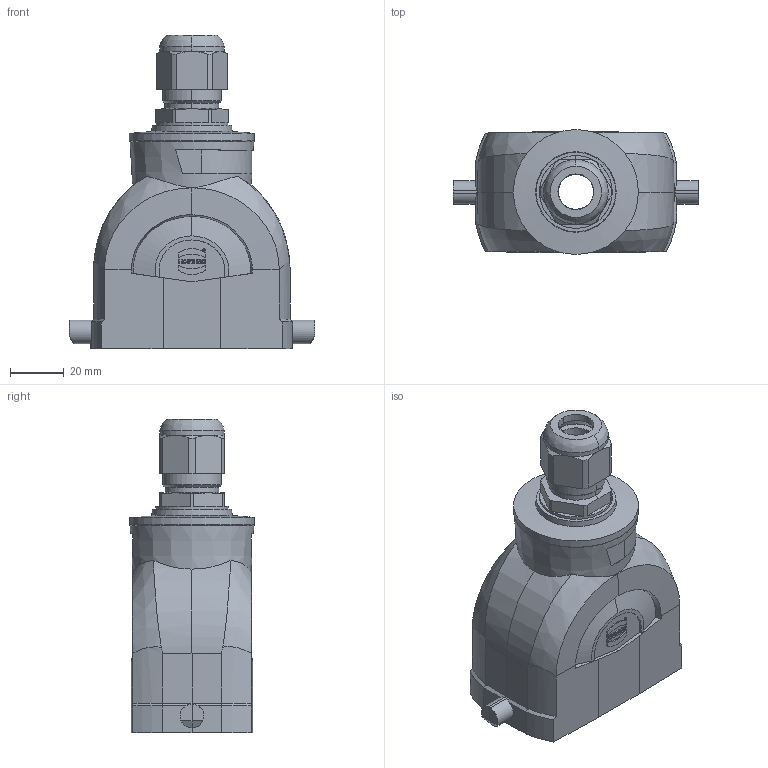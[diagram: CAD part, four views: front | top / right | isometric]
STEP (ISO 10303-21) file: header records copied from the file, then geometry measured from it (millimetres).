
FILE_DESCRIPTION(/* description */ (''),/* implementation_level */ '2;1');
FILE_NAME(/* name */ '100747330ugm000_b.stp',/* time_stamp */ '2022-03-12T05:47:00+01:00',/* author */ (''),/* organization */ (''),/* preprocessor_version */ 'ST-DEVELOPER v16.7',/* originating_system */ 'SIEMENS PLM Software NX 1911',/* authorisation */ '');
FILE_SCHEMA (('AUTOMOTIVE_DESIGN { 1 0 10303 214 3 1 1 1 }'));
Length unit declared in the file: millimetre
Products named in the file (1): 100747330ugm000_b
Bounding box: 91.08 x 46.4 x 116.5 mm (x, y, z)
Volume: 88326 mm3; surface area: 41231 mm2
Topology: 1 solids, 1 shells, 403 faces, 1174 edges, 801 vertices
Faces by surface type: plane 242, cylinder 81, cone 38, bspline 31, extrusion 8, torus 3
Full cylindrical faces by diameter (mm): 0.671 x1, 0.984 x1, 3 x4, 3.5 x4, 20 x1, 30 x1, 46.4 x1
Entity records: 20151 total; most frequent: CARTESIAN_POINT 7118, ORIENTED_EDGE 2294, DIRECTION 1828, EDGE_CURVE 1147, VERTEX_POINT 793, VECTOR 654, LINE 646, AXIS2_PLACEMENT_3D 587
